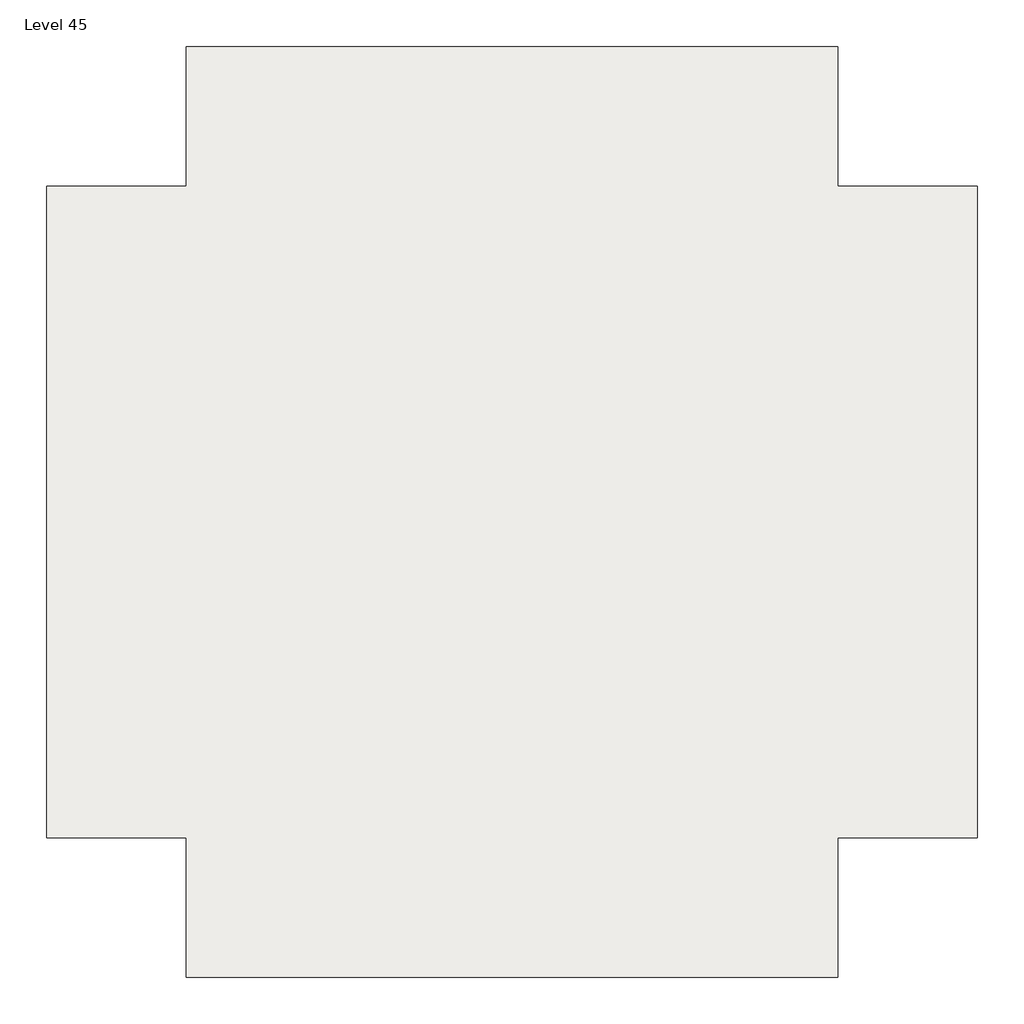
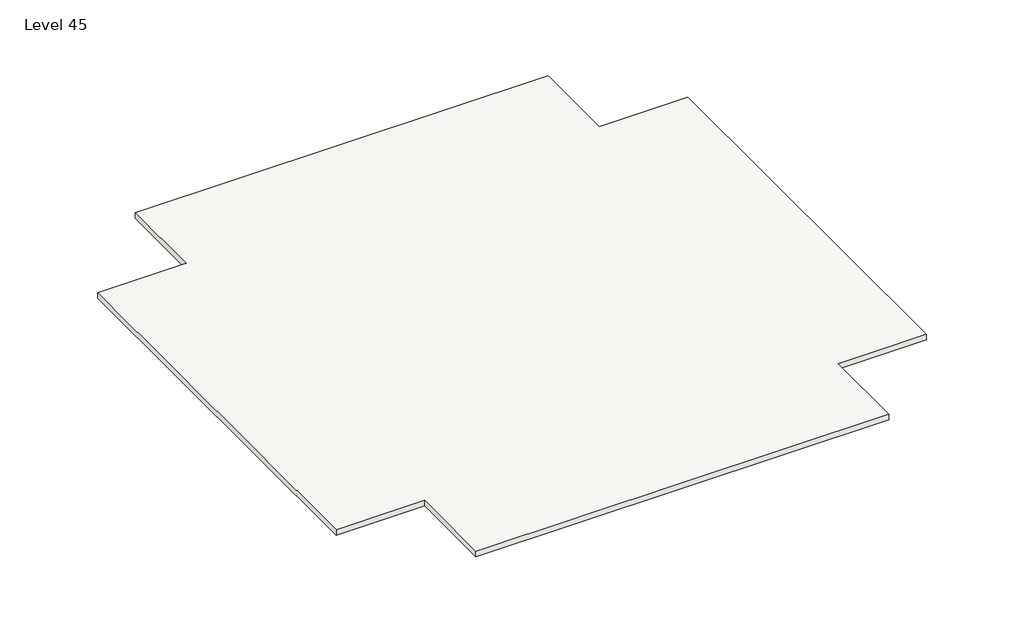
# One storey: 2 slabs.
"""IFC4 building model written with IfcOpenShell, lengths in millimetres."""

import ifcopenshell
import ifcopenshell.guid

model = None  # the IFC model being written
_history = None  # IfcOwnerHistory: only IFC2X3 demands one
_inside = {}  # id of a spatial element -> (the spatial element, [elements in it])
_under = {}  # id of a project, library or spatial element -> (it, [spatial elements below it])
_declared = {}  # id of a project -> (the project, [libraries it declares])
_typed = {}  # id of a type object -> (the type object, [elements of that type])
_made_of = {}  # id of a material, layer set ... -> (it, [elements and type objects made of it])


def new_model(schema):
    """Start an empty IFC model of exactly this schema.

    Asked for "IFC4X3", IfcOpenShell would pick the latest addendum, in which some entities
    have other attributes; the version numbers below select the first issue.
    IFC2X3 requires an IfcOwnerHistory on every rooted entity: one is made here for all.
    """
    global model, _history
    if schema == "IFC4X3":
        model = ifcopenshell.file(schema_version=(4, 3, 0, 0))
    else:
        model = ifcopenshell.file(schema=schema)
    _inside.clear()
    _under.clear()
    _declared.clear()
    _typed.clear()
    _made_of.clear()
    _history = None
    if model.schema == "IFC2X3":
        org = make("IfcOrganization", Name="unknown")
        user = make(
            "IfcPersonAndOrganization",
            ThePerson=make("IfcPerson", FamilyName="unknown"),
            TheOrganization=org,
        )
        app = make(
            "IfcApplication",
            ApplicationDeveloper=org,
            Version="unknown",
            ApplicationFullName="unknown",
            ApplicationIdentifier="unknown",
        )
        _history = make(
            "IfcOwnerHistory",
            OwningUser=user,
            OwningApplication=app,
            ChangeAction="ADDED",
            CreationDate=0,
        )
    return model


def make(cls, **values):
    """One entity of the class cls with the attributes given. An attribute that is None is left unset."""
    return model.create_entity(
        cls, **{name: value for name, value in values.items() if value is not None}
    )


def rooted(cls, **values):
    """An entity with a GlobalId (a new one), such as an element, a storey or a relation."""
    return make(cls, GlobalId=ifcopenshell.guid.new(), OwnerHistory=_history, **values)


def si_unit(unit_type, name, prefix=None):
    """IfcSIUnit, for example si_unit("LENGTHUNIT", "METRE", prefix="MILLI")."""
    return make("IfcSIUnit", UnitType=unit_type, Prefix=prefix, Name=name)


def assignment(units):
    """IfcUnitAssignment: the units of a project."""
    return None if units is None else make("IfcUnitAssignment", Units=units)


def point(xyz):
    """IfcCartesianPoint."""
    return None if xyz is None else make("IfcCartesianPoint", Coordinates=xyz)


def direction(xyz):
    """IfcDirection."""
    return None if xyz is None else make("IfcDirection", DirectionRatios=xyz)


def frame(location, z_axis=None, x_axis=None):
    """IfcAxis2Placement3D, a coordinate frame: its origin and axes. An axis left out is left unset."""
    return make(
        "IfcAxis2Placement3D",
        Location=point(location),
        Axis=direction(z_axis),
        RefDirection=direction(x_axis),
    )


def origin():
    """The frame at (0, 0, 0) with its axes left unset."""
    return frame((0.0, 0.0, 0.0))


def place(relative_to, where):
    """IfcLocalPlacement: puts the frame where relative to a parent placement (None: the world)."""
    return make(
        "IfcLocalPlacement", PlacementRelTo=relative_to, RelativePlacement=where
    )


def context(
    kind, dimensions, precision=None, world=None, true_north=None, identifier=None
):
    """IfcGeometricRepresentationContext, for example the 3D "Model" context."""
    return make(
        "IfcGeometricRepresentationContext",
        ContextIdentifier=identifier,
        ContextType=kind,
        CoordinateSpaceDimension=dimensions,
        Precision=precision,
        WorldCoordinateSystem=world,
        TrueNorth=true_north,
    )


def project(units=None, contexts=None):
    """IfcProject with its units and contexts."""
    return rooted(
        "IfcProject",
        Name="project",
        RepresentationContexts=contexts,
        UnitsInContext=assignment(units),
    )


def spatial(cls, under=None, at=None, **own):
    """A site, building, storey or space (cls), placed at a placement, below another one or the project."""
    s = rooted(cls, ObjectPlacement=at, **own)
    if under is not None:
        _under.setdefault(under.id(), (under, []))[1].append(s)
    return s


def polyline(points):
    """IfcPolyline through the points."""
    return make("IfcPolyline", Points=[point(p) for p in points])


def outline(outer, holes=None, kind="AREA"):
    """IfcArbitraryClosedProfileDef: a profile drawn as a closed curve; with holes, ...WithVoids."""
    if holes is None:
        return make("IfcArbitraryClosedProfileDef", ProfileType=kind, OuterCurve=outer)
    return make(
        "IfcArbitraryProfileDefWithVoids",
        ProfileType=kind,
        OuterCurve=outer,
        InnerCurves=holes,
    )


def extrude(swept, where, along, depth):
    """IfcExtrudedAreaSolid: the profile swept, set in the frame where, extruded along a direction by depth."""
    return make(
        "IfcExtrudedAreaSolid",
        SweptArea=swept,
        Position=where,
        ExtrudedDirection=direction(along),
        Depth=depth,
    )


def shape(context_of_items, identifier, shape_type, items):
    """IfcShapeRepresentation: the items that make up one representation, for example the "Body"."""
    return make(
        "IfcShapeRepresentation",
        ContextOfItems=context_of_items,
        RepresentationIdentifier=identifier,
        RepresentationType=shape_type,
        Items=items,
    )


def made_of(thing, what):
    """Note that an element or type object is made of a material, layer set ...; save() writes the relation."""
    if what is not None:
        _made_of.setdefault(what.id(), (what, []))[1].append(thing)
    return thing


def element(
    cls,
    number,
    at=None,
    inside=None,
    cuts=None,
    type_object=None,
    material=None,
    context=None,
    identifier="Body",
    shape_type=None,
    held_by="IfcProductDefinitionShape",
    body=None,
    shapes=None,
    **own,
):
    """One element of the class cls, such as IfcWall. Its Tag is "e" and its number.

    at: its placement. inside: the storey or other place that contains it. cuts: it is an
    opening in that element (IfcRelVoidsElement). A single representation is given by context,
    identifier, shape_type and body (its items); several are given by shapes. held_by: the class
    of the entity that holds the representations. save() writes the other relations.
    """
    e = rooted(cls, Tag="e%d" % number, ObjectPlacement=at, **own)
    if body is not None:
        shapes = [shape(context, identifier, shape_type, body)]
    if shapes is not None:
        e.Representation = make(held_by, Representations=shapes)
    if inside is not None:
        _inside.setdefault(inside.id(), (inside, []))[1].append(e)
    if cuts is not None:
        rooted(
            "IfcRelVoidsElement", RelatingBuildingElement=cuts, RelatedOpeningElement=e
        )
    if type_object is not None:
        _typed.setdefault(type_object.id(), (type_object, []))[1].append(e)
    return made_of(e, material)


def aggregate(whole, parts):
    """IfcRelAggregates: a whole, such as a stair, and the parts it consists of."""
    return rooted("IfcRelAggregates", RelatingObject=whole, RelatedObjects=parts)


def save(model, path):
    """Write the relations noted so far, then the file.

    IfcRelAggregates (storeys below a building ...), IfcRelContainedInSpatialStructure (elements
    in a storey), IfcRelDefinesByType, IfcRelAssociatesMaterial and IfcRelDeclares: one each for
    every whole, place, type object, material and project.
    """
    for whole, parts in _under.values():
        aggregate(whole, parts)
    for where, things in _inside.values():
        rooted(
            "IfcRelContainedInSpatialStructure",
            RelatedElements=things,
            RelatingStructure=where,
        )
    for kind, things in _typed.values():
        rooted("IfcRelDefinesByType", RelatedObjects=things, RelatingType=kind)
    for what, things in _made_of.values():
        rooted("IfcRelAssociatesMaterial", RelatedObjects=things, RelatingMaterial=what)
    for by, libraries in _declared.values():
        rooted("IfcRelDeclares", RelatingContext=by, RelatedDefinitions=libraries)
    model.write(path)


model = new_model("IFC4")

# Units and contexts
model_context = context("Model", 3, world=origin())
ifc_project = project(units=[si_unit("LENGTHUNIT", "METRE", prefix="MILLI")], contexts=[model_context])

# Site, building, storey
site = spatial("IfcSite", under=ifc_project)
building = spatial("IfcBuilding", under=site)
storey = spatial("IfcBuildingStorey", under=building, Name="Level 45", Elevation=134112.0)

# Slabs
placement = place(None, origin())
element("IfcSlab", 1, ObjectType="Generic - 12\"", at=placement, inside=storey, context=model_context, shape_type="SweptSolid", body=[
    extrude(outline(polyline([(-7150.3629456, 4479.6634547), (-7150.3629456, 9051.6634547), (14185.6370544, 9051.6634547), (14185.6370544, 4479.6634547), (18757.6370544, 4479.6634547), (18757.6370544, -16856.3365453), (14185.6370544, -16856.3365453), (14185.6370544, -21428.3365453), (-7150.3629456, -21428.3365453), (-7150.3629456, -16856.3365453), (-11722.3629456, -16856.3365453), (-11722.3629456, 4479.6634547), (-7150.3629456, 4479.6634547)])), frame((0.0, 0.0, 133807.2), z_axis=(0.0, 0.0, 1.0), x_axis=(1.0, 0.0, 0.0)), (0.0, 0.0, 1.0), 304.8),
])
element("IfcSlab", 2, ObjectType="Generic - 12\"", at=placement, inside=storey, context=model_context, shape_type="SweptSolid", body=[
    extrude(outline(polyline([(-7150.3629456, 4479.6634547), (-7150.3629456, 9051.6634547), (14185.6370544, 9051.6634547), (14185.6370544, 4479.6634547), (18757.6370544, 4479.6634547), (18757.6370544, -16856.3365453), (14185.6370544, -16856.3365453), (14185.6370544, -21428.3365453), (-7150.3629456, -21428.3365453), (-7150.3629456, -16856.3365453), (-11722.3629456, -16856.3365453), (-11722.3629456, 4479.6634547), (-7150.3629456, 4479.6634547)])), frame((0.0, 0.0, 133807.2), z_axis=(0.0, 0.0, 1.0), x_axis=(1.0, 0.0, 0.0)), (0.0, 0.0, 1.0), 304.8),
])

save(model, "model.ifc")
